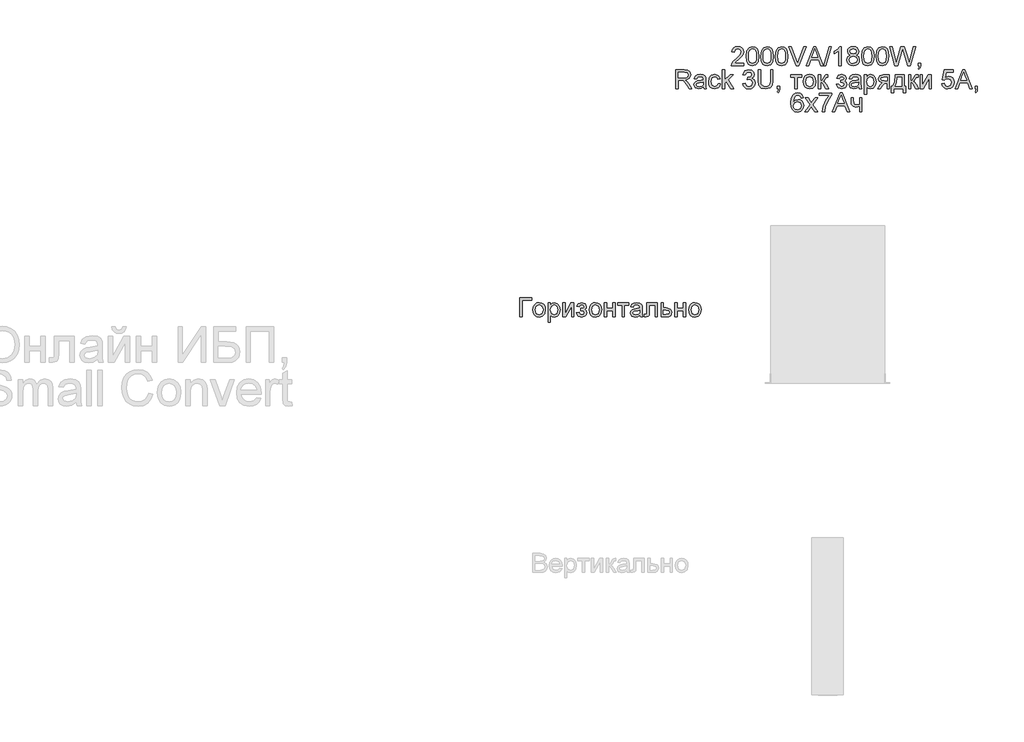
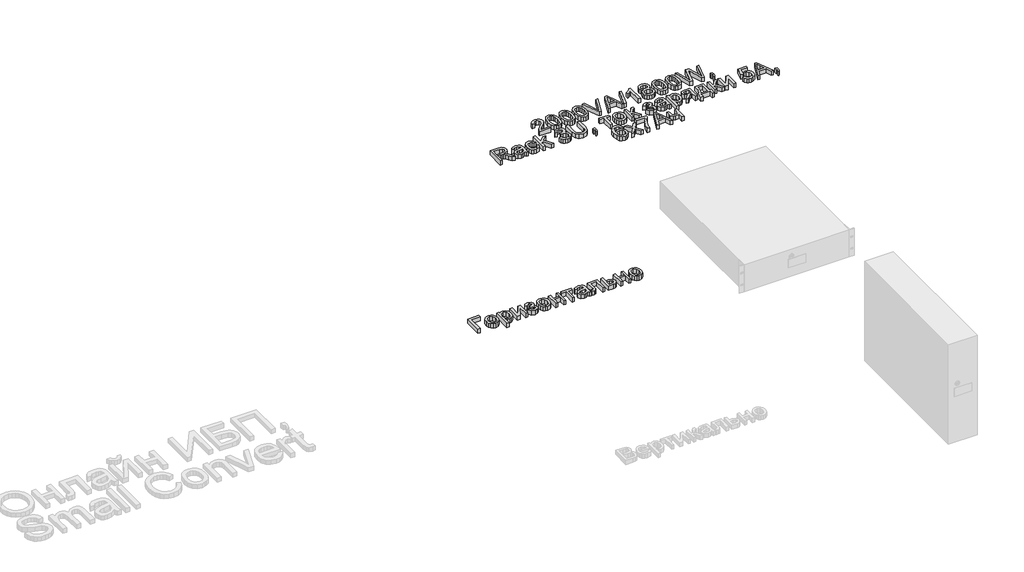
# One storey, part 12 of 74: 2 proxies.
"""IFC4 building model written with IfcOpenShell, lengths in millimetres."""

import ifcopenshell
import ifcopenshell.guid

model = None  # the IFC model being written
_history = None  # IfcOwnerHistory: only IFC2X3 demands one
_inside = {}  # id of a spatial element -> (the spatial element, [elements in it])
_under = {}  # id of a project, library or spatial element -> (it, [spatial elements below it])
_declared = {}  # id of a project -> (the project, [libraries it declares])
_typed = {}  # id of a type object -> (the type object, [elements of that type])
_made_of = {}  # id of a material, layer set ... -> (it, [elements and type objects made of it])


def new_model(schema):
    """Start an empty IFC model of exactly this schema.

    Asked for "IFC4X3", IfcOpenShell would pick the latest addendum, in which some entities
    have other attributes; the version numbers below select the first issue.
    IFC2X3 requires an IfcOwnerHistory on every rooted entity: one is made here for all.
    """
    global model, _history
    if schema == "IFC4X3":
        model = ifcopenshell.file(schema_version=(4, 3, 0, 0))
    else:
        model = ifcopenshell.file(schema=schema)
    _inside.clear()
    _under.clear()
    _declared.clear()
    _typed.clear()
    _made_of.clear()
    _history = None
    if model.schema == "IFC2X3":
        org = make("IfcOrganization", Name="unknown")
        user = make(
            "IfcPersonAndOrganization",
            ThePerson=make("IfcPerson", FamilyName="unknown"),
            TheOrganization=org,
        )
        app = make(
            "IfcApplication",
            ApplicationDeveloper=org,
            Version="unknown",
            ApplicationFullName="unknown",
            ApplicationIdentifier="unknown",
        )
        _history = make(
            "IfcOwnerHistory",
            OwningUser=user,
            OwningApplication=app,
            ChangeAction="ADDED",
            CreationDate=0,
        )
    return model


def make(cls, **values):
    """One entity of the class cls with the attributes given. An attribute that is None is left unset."""
    return model.create_entity(
        cls, **{name: value for name, value in values.items() if value is not None}
    )


def rooted(cls, **values):
    """An entity with a GlobalId (a new one), such as an element, a storey or a relation."""
    return make(cls, GlobalId=ifcopenshell.guid.new(), OwnerHistory=_history, **values)


def si_unit(unit_type, name, prefix=None):
    """IfcSIUnit, for example si_unit("LENGTHUNIT", "METRE", prefix="MILLI")."""
    return make("IfcSIUnit", UnitType=unit_type, Prefix=prefix, Name=name)


def assignment(units):
    """IfcUnitAssignment: the units of a project."""
    return None if units is None else make("IfcUnitAssignment", Units=units)


def point(xyz):
    """IfcCartesianPoint."""
    return None if xyz is None else make("IfcCartesianPoint", Coordinates=xyz)


def direction(xyz):
    """IfcDirection."""
    return None if xyz is None else make("IfcDirection", DirectionRatios=xyz)


def frame(location, z_axis=None, x_axis=None):
    """IfcAxis2Placement3D, a coordinate frame: its origin and axes. An axis left out is left unset."""
    return make(
        "IfcAxis2Placement3D",
        Location=point(location),
        Axis=direction(z_axis),
        RefDirection=direction(x_axis),
    )


def origin():
    """The frame at (0, 0, 0) with its axes left unset."""
    return frame((0.0, 0.0, 0.0))


def origin_with_axes():
    """The frame at (0, 0, 0) with the z axis (0, 0, 1) and the x axis (1, 0, 0) written out."""
    return frame((0.0, 0.0, 0.0), z_axis=(0.0, 0.0, 1.0), x_axis=(1.0, 0.0, 0.0))


def place(relative_to, where):
    """IfcLocalPlacement: puts the frame where relative to a parent placement (None: the world)."""
    return make(
        "IfcLocalPlacement", PlacementRelTo=relative_to, RelativePlacement=where
    )


def context(
    kind, dimensions, precision=None, world=None, true_north=None, identifier=None
):
    """IfcGeometricRepresentationContext, for example the 3D "Model" context."""
    return make(
        "IfcGeometricRepresentationContext",
        ContextIdentifier=identifier,
        ContextType=kind,
        CoordinateSpaceDimension=dimensions,
        Precision=precision,
        WorldCoordinateSystem=world,
        TrueNorth=true_north,
    )


def project(units=None, contexts=None):
    """IfcProject with its units and contexts."""
    return rooted(
        "IfcProject",
        Name="project",
        RepresentationContexts=contexts,
        UnitsInContext=assignment(units),
    )


def spatial(cls, under=None, at=None, **own):
    """A site, building, storey or space (cls), placed at a placement, below another one or the project."""
    s = rooted(cls, ObjectPlacement=at, **own)
    if under is not None:
        _under.setdefault(under.id(), (under, []))[1].append(s)
    return s


def polyline(points):
    """IfcPolyline through the points."""
    return make("IfcPolyline", Points=[point(p) for p in points])


def outline(outer, holes=None, kind="AREA"):
    """IfcArbitraryClosedProfileDef: a profile drawn as a closed curve; with holes, ...WithVoids."""
    if holes is None:
        return make("IfcArbitraryClosedProfileDef", ProfileType=kind, OuterCurve=outer)
    return make(
        "IfcArbitraryProfileDefWithVoids",
        ProfileType=kind,
        OuterCurve=outer,
        InnerCurves=holes,
    )


def extrude(swept, where, along, depth):
    """IfcExtrudedAreaSolid: the profile swept, set in the frame where, extruded along a direction by depth."""
    return make(
        "IfcExtrudedAreaSolid",
        SweptArea=swept,
        Position=where,
        ExtrudedDirection=direction(along),
        Depth=depth,
    )


def shape(context_of_items, identifier, shape_type, items):
    """IfcShapeRepresentation: the items that make up one representation, for example the "Body"."""
    return make(
        "IfcShapeRepresentation",
        ContextOfItems=context_of_items,
        RepresentationIdentifier=identifier,
        RepresentationType=shape_type,
        Items=items,
    )


def made_of(thing, what):
    """Note that an element or type object is made of a material, layer set ...; save() writes the relation."""
    if what is not None:
        _made_of.setdefault(what.id(), (what, []))[1].append(thing)
    return thing


def element(
    cls,
    number,
    at=None,
    inside=None,
    cuts=None,
    type_object=None,
    material=None,
    context=None,
    identifier="Body",
    shape_type=None,
    held_by="IfcProductDefinitionShape",
    body=None,
    shapes=None,
    **own,
):
    """One element of the class cls, such as IfcWall. Its Tag is "e" and its number.

    at: its placement. inside: the storey or other place that contains it. cuts: it is an
    opening in that element (IfcRelVoidsElement). A single representation is given by context,
    identifier, shape_type and body (its items); several are given by shapes. held_by: the class
    of the entity that holds the representations. save() writes the other relations.
    """
    e = rooted(cls, Tag="e%d" % number, ObjectPlacement=at, **own)
    if body is not None:
        shapes = [shape(context, identifier, shape_type, body)]
    if shapes is not None:
        e.Representation = make(held_by, Representations=shapes)
    if inside is not None:
        _inside.setdefault(inside.id(), (inside, []))[1].append(e)
    if cuts is not None:
        rooted(
            "IfcRelVoidsElement", RelatingBuildingElement=cuts, RelatedOpeningElement=e
        )
    if type_object is not None:
        _typed.setdefault(type_object.id(), (type_object, []))[1].append(e)
    return made_of(e, material)


def aggregate(whole, parts):
    """IfcRelAggregates: a whole, such as a stair, and the parts it consists of."""
    return rooted("IfcRelAggregates", RelatingObject=whole, RelatedObjects=parts)


def save(model, path):
    """Write the relations noted so far, then the file.

    IfcRelAggregates (storeys below a building ...), IfcRelContainedInSpatialStructure (elements
    in a storey), IfcRelDefinesByType, IfcRelAssociatesMaterial and IfcRelDeclares: one each for
    every whole, place, type object, material and project.
    """
    for whole, parts in _under.values():
        aggregate(whole, parts)
    for where, things in _inside.values():
        rooted(
            "IfcRelContainedInSpatialStructure",
            RelatedElements=things,
            RelatingStructure=where,
        )
    for kind, things in _typed.values():
        rooted("IfcRelDefinesByType", RelatedObjects=things, RelatingType=kind)
    for what, things in _made_of.values():
        rooted("IfcRelAssociatesMaterial", RelatedObjects=things, RelatingMaterial=what)
    for by, libraries in _declared.values():
        rooted("IfcRelDeclares", RelatingContext=by, RelatedDefinitions=libraries)
    model.write(path)


model = new_model("IFC4")

# Units and contexts
model_context = context("Model", 3, world=origin())
ifc_project = project(units=[si_unit("LENGTHUNIT", "METRE", prefix="MILLI")], contexts=[model_context])

# Site, building, storey
site = spatial("IfcSite", under=ifc_project)
building = spatial("IfcBuilding", under=site)
storey = spatial("IfcBuildingStorey", under=building, Name="Этаж 01", Elevation=0.0)

# Proxies
placement = place(None, origin())
element("IfcBuildingElementProxy", 1, Name="80 мм Arial", ObjectType="80 мм Arial", at=placement, inside=storey, context=model_context, shape_type="SweptSolid", body=[
    extrude(outline(polyline([(52.7313094, -35349.6879141), (102.9594644, -35349.6879141), (102.9594644, -35359.7335451), (62.7769404, -35359.7335451), (62.7769404, -35430.0529622), (52.7313094, -35430.0529622), (52.7313094, -35349.6879141)])), origin_with_axes(), (0.0, 0.0, 1.0), 20.0),
    extrude(outline(polyline([(107.9822799, -35400.5439211), (110.1552363, -35386.3142455), (116.6741052, -35376.3127603), (124.7282684, -35371.4125721), (134.3716817, -35369.7791761), (144.9249899, -35371.7681914), (153.3543927, -35377.7352374), (158.8799802, -35387.209425), (160.7218428, -35399.7198654), (157.4648608, -35417.5940253), (147.9784105, -35427.7083276), (134.3716817, -35431.3086661), (123.6908411, -35429.3270084), (115.2712485, -35423.3820353), (109.8045221, -35413.7091914), (107.9822799, -35400.5439211)]), holes=[polyline([(118.027911, -35400.5243007), (122.6779394, -35416.0930667), (134.3716817, -35421.263035), (146.0261833, -35416.0636362), (150.6762117, -35400.2103747), (145.9967528, -35384.9947754), (134.3716817, -35379.8248071), (122.6779394, -35384.975155), (118.027911, -35400.5243007)])]), origin_with_axes(), (0.0, 0.0, 1.0), 20.0),
    extrude(outline(polyline([(172.0231777, -35452.655632), (172.0231777, -35371.03488), (182.0688087, -35371.03488), (182.0688087, -35380.8843072), (189.0144207, -35372.5554589), (198.3929591, -35369.7791761), (211.1265812, -35373.66401), (219.4456194, -35384.6121781), (222.2513327, -35400.0926525), (219.0826425, -35416.367752), (209.8806875, -35427.4532627), (197.1764959, -35431.3086661), (188.4356197, -35428.728587), (182.0688087, -35422.2048129), (182.0688087, -35452.655632), (172.0231777, -35452.655632)]), holes=[polyline([(182.0688087, -35401.01481), (186.4147213, -35416.318701), (196.9606718, -35421.263035), (207.7224465, -35416.1421177), (212.2057017, -35400.2692358), (207.8303585, -35384.9261041), (197.3726997, -35379.8248071), (186.7090269, -35385.2498403), (182.0688087, -35401.01481)])]), origin_with_axes(), (0.0, 0.0, 1.0), 20.0),
    extrude(outline(polyline([(233.5526676, -35371.03488), (243.5982986, -35371.03488), (243.5982986, -35416.0440158), (268.280728, -35371.03488), (281.2694149, -35371.03488), (281.2694149, -35430.0529622), (271.2237839, -35430.0529622), (271.2237839, -35385.3185116), (246.6983176, -35430.0529622), (233.5526676, -35430.0529622), (233.5526676, -35371.03488)])), origin_with_axes(), (0.0, 0.0, 1.0), 20.0),
    extrude(outline(polyline([(310.1506041, -35403.6831808), (310.1506041, -35393.6375497), (318.0772348, -35393.2451423), (322.0797909, -35391.1555726), (323.9633468, -35386.7900395), (321.4421288, -35381.7181731), (314.9379751, -35379.8248071), (308.2179974, -35381.7083629), (303.8720847, -35387.3590304), (292.5707498, -35386.1033265), (300.1245935, -35373.8602137), (313.9177157, -35369.7791761), (328.6722363, -35374.7529407), (334.0089778, -35386.6330766), (332.1107067, -35392.8723552), (326.4158934, -35397.698967), (333.0573897, -35403.957866), (335.2646816, -35412.9636172), (333.8642775, -35420.3580453), (329.6630651, -35426.2171792), (313.9961972, -35431.3086661), (298.5451534, -35426.5997765), (291.315046, -35412.4731079), (302.6163809, -35411.217404), (307.148687, -35418.633905), (314.9575955, -35421.263035), (322.295615, -35418.7418171), (325.2190506, -35412.2965245), (323.4041661, -35407.0186442), (319.5389526, -35404.1933105), (312.1126414, -35403.6243196), (310.1506041, -35403.6831808)])), origin_with_axes(), (0.0, 0.0, 1.0), 20.0),
    extrude(outline(polyline([(345.3103127, -35400.5439211), (347.483269, -35386.3142455), (354.0021379, -35376.3127603), (362.0563011, -35371.4125721), (371.6997145, -35369.7791761), (382.2530226, -35371.7681914), (390.6824254, -35377.7352374), (396.208013, -35387.209425), (398.0498755, -35399.7198654), (394.7928936, -35417.5940253), (385.3064432, -35427.7083276), (371.6997145, -35431.3086661), (361.0188739, -35429.3270084), (352.5992813, -35423.3820353), (347.1325548, -35413.7091914), (345.3103127, -35400.5439211)]), holes=[polyline([(355.3559437, -35400.5243007), (360.0059721, -35416.0930667), (371.6997145, -35421.263035), (383.3542161, -35416.0636362), (388.0042445, -35400.2103747), (383.3247855, -35384.9947754), (371.6997145, -35379.8248071), (360.0059721, -35384.975155), (355.3559437, -35400.5243007)])]), origin_with_axes(), (0.0, 0.0, 1.0), 20.0),
    extrude(outline(polyline([(409.3512104, -35371.03488), (419.3968414, -35371.03488), (419.3968414, -35393.6375497), (445.7666228, -35393.6375497), (445.7666228, -35371.03488), (455.8122538, -35371.03488), (455.8122538, -35430.0529622), (445.7666228, -35430.0529622), (445.7666228, -35403.6831808), (419.3968414, -35403.6831808), (419.3968414, -35430.0529622), (409.3512104, -35430.0529622), (409.3512104, -35371.03488)])), origin_with_axes(), (0.0, 0.0, 1.0), 20.0),
    extrude(outline(polyline([(465.8578848, -35371.03488), (513.5746322, -35371.03488), (513.5746322, -35381.080511), (494.739074, -35381.080511), (494.739074, -35430.0529622), (484.693443, -35430.0529622), (484.693443, -35381.080511), (465.8578848, -35381.080511), (465.8578848, -35371.03488)])), origin_with_axes(), (0.0, 0.0, 1.0), 20.0),
    extrude(outline(polyline([(560.0356756, -35422.5187389), (550.2941604, -35429.3270084), (539.5323857, -35431.3086661), (524.9446384, -35426.5409154), (519.8531515, -35414.3566637), (521.7759481, -35406.4104126), (526.8281942, -35400.6420229), (533.8620979, -35397.3458003), (542.5539232, -35395.8350315), (559.9768145, -35392.3818459), (560.0356756, -35390.1451233), (557.269203, -35382.7286223), (546.1640718, -35379.8248071), (536.0007186, -35381.7574138), (531.1544864, -35388.6147342), (521.1088554, -35387.3590304), (525.4547681, -35377.5488438), (534.2054545, -35371.8000745), (547.4590165, -35369.7791761), (559.633458, -35371.56463), (566.5103987, -35376.0478853), (569.5907973, -35382.8659649), (570.0813066, -35391.6558921), (570.0813066, -35404.1540697), (570.5914363, -35421.6063916), (572.5927144, -35430.0529622), (562.5470834, -35430.0529622), (560.0356756, -35422.5187389)]), holes=[polyline([(560.0356756, -35402.4274769), (543.8292474, -35405.5078755), (535.1864731, -35407.1363664), (531.2722087, -35409.7851168), (529.8987826, -35413.6503303), (532.8908895, -35419.0851736), (541.6710064, -35421.263035), (551.8343597, -35418.8595393), (558.3875643, -35413.0420987), (559.9768145, -35405.272431), (560.0356756, -35402.4274769)])]), origin_with_axes(), (0.0, 0.0, 1.0), 20.0),
    extrude(outline(polyline([(588.9168648, -35371.03488), (634.1222043, -35371.03488), (634.1222043, -35429.9941011), (624.0765733, -35429.9941011), (624.0765733, -35381.080511), (598.9624958, -35381.080511), (598.9624958, -35409.2357463), (598.2855929, -35422.2244333), (594.5675322, -35427.7083276), (585.7776051, -35430.0529622), (577.6155299, -35429.5428325), (577.6155299, -35420.0073312), (582.1085953, -35420.0073312), (586.6507117, -35419.3892894), (588.4655962, -35417.4272521), (588.9168648, -35408.6667555), (588.9168648, -35371.03488)])), origin_with_axes(), (0.0, 0.0, 1.0), 20.0),
    extrude(outline(polyline([(649.1906509, -35371.03488), (659.2362819, -35371.03488), (659.2362819, -35392.3818459), (670.812302, -35392.3818459), (688.274434, -35397.4144716), (692.8656013, -35403.4011379), (694.3959904, -35411.2958855), (689.1867814, -35424.5494475), (682.4153001, -35428.6770835), (672.5192745, -35430.0529622), (649.1906509, -35430.0529622), (649.1906509, -35371.03488)]), holes=[polyline([(659.2362819, -35420.0073312), (668.6148202, -35420.0073312), (680.7304006, -35417.8981411), (684.3503594, -35411.3155059), (681.6721785, -35405.1350884), (669.811663, -35402.4274769), (659.2362819, -35402.4274769), (659.2362819, -35420.0073312)])]), origin_with_axes(), (0.0, 0.0, 1.0), 20.0),
    extrude(outline(polyline([(706.9530292, -35371.03488), (716.9986602, -35371.03488), (716.9986602, -35393.6375497), (743.3684416, -35393.6375497), (743.3684416, -35371.03488), (753.4140726, -35371.03488), (753.4140726, -35430.0529622), (743.3684416, -35430.0529622), (743.3684416, -35403.6831808), (716.9986602, -35403.6831808), (716.9986602, -35430.0529622), (706.9530292, -35430.0529622), (706.9530292, -35371.03488)])), origin_with_axes(), (0.0, 0.0, 1.0), 20.0),
    extrude(outline(polyline([(765.9711114, -35400.5439211), (768.1440677, -35386.3142455), (774.6629367, -35376.3127603), (782.7170998, -35371.4125721), (792.3605132, -35369.7791761), (802.9138214, -35371.7681914), (811.3432242, -35377.7352374), (816.8688117, -35387.209425), (818.7106742, -35399.7198654), (815.4536923, -35417.5940253), (805.9672419, -35427.7083276), (792.3605132, -35431.3086661), (781.6796726, -35429.3270084), (773.26008, -35423.3820353), (767.7933536, -35413.7091914), (765.9711114, -35400.5439211)]), holes=[polyline([(776.0167424, -35400.5243007), (780.6667708, -35416.0930667), (792.3605132, -35421.263035), (804.0150148, -35416.0636362), (808.6650432, -35400.2103747), (803.9855843, -35384.9947754), (792.3605132, -35379.8248071), (780.6667708, -35384.975155), (776.0167424, -35400.5243007)])]), origin_with_axes(), (0.0, 0.0, 1.0), 20.0),
])
element("IfcBuildingElementProxy", 2, Name="80 мм Arial", ObjectType="80 мм Arial", at=placement, inside=storey, context=model_context, shape_type="SweptSolid", body=[
    extrude(outline(polyline([(999.1131351, -34358.2120336), (999.1131351, -34368.2576646), (946.3735723, -34368.2576646), (947.4526928, -34361.3316729), (953.5546288, -34350.6680002), (966.1312879, -34339.0233087), (983.4756977, -34322.2871305), (987.8118002, -34310.9073141), (983.7209524, -34301.695549), (973.0376593, -34297.9382475), (961.9030975, -34301.6072573), (957.6749071, -34311.7509902), (947.6292761, -34310.4952863), (950.0646549, -34300.7782965), (955.3302726, -34293.6806266), (963.1514438, -34289.339619), (973.2534834, -34287.8926165), (983.4290994, -34289.5014871), (991.2355553, -34294.3280989), (996.2019622, -34301.538586), (997.8574312, -34310.2990826), (996.0719773, -34319.8247737), (990.1368144, -34329.674201), (975.7452708, -34343.4378927), (964.188871, -34353.1009264), (959.6565648, -34358.2120336), (999.1131351, -34358.2120336)])), origin_with_axes(), (0.0, 0.0, 1.0), 20.0),
    extrude(outline(polyline([(1009.1587661, -34328.7226129), (1012.1116322, -34305.6000032), (1020.881939, -34292.2679597), (1035.5285475, -34287.8926165), (1047.2615306, -34290.4825058), (1055.3647447, -34297.9480577), (1060.0736342, -34309.8380038), (1061.8983289, -34328.7226129), (1058.9748933, -34351.7471207), (1050.2340171, -34365.1085947), (1035.5285475, -34369.5133685), (1025.090509, -34367.6003821), (1017.1638783, -34361.861423), (1011.1600442, -34348.2694096), (1009.1587661, -34328.7226129)]), holes=[polyline([(1019.2043971, -34328.7029925), (1020.3816195, -34344.5047505), (1023.9132867, -34353.6502969), (1035.5285475, -34359.4677375), (1047.1438084, -34353.6306765), (1050.6754755, -34344.480225), (1051.8526979, -34328.7029925), (1050.7147163, -34313.2568538), (1047.3007714, -34304.0401835), (1042.0523216, -34299.4637315), (1035.4108253, -34297.9382475), (1024.0702496, -34303.3142297), (1020.4208602, -34313.1047959), (1019.2043971, -34328.7029925)])]), origin_with_axes(), (0.0, 0.0, 1.0), 20.0),
    extrude(outline(polyline([(1070.6882561, -34328.7226129), (1073.6411222, -34305.6000032), (1082.411429, -34292.2679597), (1097.0580375, -34287.8926165), (1108.7910206, -34290.4825058), (1116.8942347, -34297.9480577), (1121.6031242, -34309.8380038), (1123.4278189, -34328.7226129), (1120.5043833, -34351.7471207), (1111.7635071, -34365.1085947), (1097.0580375, -34369.5133685), (1086.619999, -34367.6003821), (1078.6933683, -34361.861423), (1072.6895341, -34348.2694096), (1070.6882561, -34328.7226129)]), holes=[polyline([(1080.7338871, -34328.7029925), (1081.9111095, -34344.5047505), (1085.4427766, -34353.6502969), (1097.0580375, -34359.4677375), (1108.6732983, -34353.6306765), (1112.2049655, -34344.480225), (1113.3821879, -34328.7029925), (1112.2442062, -34313.2568538), (1108.8302613, -34304.0401835), (1103.5818115, -34299.4637315), (1096.9403152, -34297.9382475), (1085.5997396, -34303.3142297), (1081.9503502, -34313.1047959), (1080.7338871, -34328.7029925)])]), origin_with_axes(), (0.0, 0.0, 1.0), 20.0),
    extrude(outline(polyline([(1132.217746, -34328.7226129), (1135.1706122, -34305.6000032), (1143.9409189, -34292.2679597), (1158.5875274, -34287.8926165), (1170.3205105, -34290.4825058), (1178.4237246, -34297.9480577), (1183.1326142, -34309.8380038), (1184.9573089, -34328.7226129), (1182.0338733, -34351.7471207), (1173.2929971, -34365.1085947), (1158.5875274, -34369.5133685), (1148.149489, -34367.6003821), (1140.2228582, -34361.861423), (1134.2190241, -34348.2694096), (1132.217746, -34328.7226129)]), holes=[polyline([(1142.263377, -34328.7029925), (1143.4405994, -34344.5047505), (1146.9722666, -34353.6502969), (1158.5875274, -34359.4677375), (1170.2027883, -34353.6306765), (1173.7344555, -34344.480225), (1174.9116778, -34328.7029925), (1173.7736962, -34313.2568538), (1170.3597513, -34304.0401835), (1165.1113015, -34299.4637315), (1158.4698052, -34297.9382475), (1147.1292296, -34303.3142297), (1143.4798402, -34313.1047959), (1142.263377, -34328.7029925)])]), origin_with_axes(), (0.0, 0.0, 1.0), 20.0),
    extrude(outline(polyline([(1262.2419584, -34368.2576646), (1294.3212684, -34287.8926165), (1302.875751, -34287.8926165), (1334.955061, -34368.2576646), (1324.3404392, -34368.2576646), (1315.1384842, -34343.1435871), (1282.0389148, -34343.1435871), (1272.8565802, -34368.2576646), (1262.2419584, -34368.2576646)]), holes=[polyline([(1285.727545, -34333.0979561), (1311.4694745, -34333.0979561), (1304.2295568, -34313.3402404), (1298.5985097, -34297.9382475), (1293.5953146, -34311.6136476), (1285.727545, -34333.0979561)])]), origin_with_axes(), (0.0, 0.0, 1.0), 20.0),
    extrude(outline(polyline([(1221.2549991, -34368.2576646), (1189.2737909, -34287.8926165), (1200.0257554, -34287.8926165), (1221.4315824, -34345.7923375), (1225.7676849, -34358.8398855), (1230.0449262, -34345.7923375), (1251.5096143, -34287.8926165), (1262.2615788, -34287.8926165), (1231.6341764, -34368.2576646), (1221.2549991, -34368.2576646)])), origin_with_axes(), (0.0, 0.0, 1.0), 20.0),
    extrude(outline(polyline([(1336.897478, -34368.2576646), (1359.5001477, -34287.8926165), (1368.5647601, -34287.8926165), (1345.9620903, -34368.2576646), (1336.897478, -34368.2576646)])), origin_with_axes(), (0.0, 0.0, 1.0), 20.0),
    extrude(outline(polyline([(1410.9840067, -34368.2576646), (1400.9383757, -34368.2576646), (1400.9383757, -34305.6294338), (1391.4224947, -34312.4082727), (1380.8471137, -34317.4801391), (1380.8471137, -34307.9838785), (1395.5722036, -34298.5857198), (1404.5092836, -34287.8926165), (1410.9840067, -34287.8926165), (1410.9840067, -34368.2576646)])), origin_with_axes(), (0.0, 0.0, 1.0), 20.0),
    extrude(outline(polyline([(1449.4791787, -34323.994103), (1440.3262746, -34317.7548243), (1437.3537881, -34308.0427397), (1438.9724689, -34300.1896853), (1443.8285112, -34293.7002469), (1451.3774498, -34289.3445241), (1461.0748192, -34287.8926165), (1470.8310497, -34289.3788598), (1478.4780901, -34293.8375895), (1483.4224241, -34300.4300349), (1485.0705354, -34308.3174249), (1482.1372897, -34317.7842549), (1473.2394505, -34323.994103), (1483.9227436, -34331.8716828), (1487.5819432, -34344.8701799), (1485.7670587, -34354.4743525), (1480.3224051, -34362.4107934), (1471.9150753, -34367.7377247), (1461.2121618, -34369.5133685), (1450.5092483, -34367.7303671), (1442.1019184, -34362.3813629), (1436.6572649, -34354.368893), (1434.8423804, -34344.5954947), (1438.6487327, -34331.2928817), (1449.4791787, -34323.994103)]), holes=[polyline([(1447.3994191, -34308.3370452), (1450.9605168, -34316.2244352), (1461.329884, -34319.2852134), (1471.4932373, -34316.2440556), (1475.0249044, -34308.7883138), (1471.375515, -34301.067697), (1461.2121618, -34297.9382475), (1451.019378, -34300.9990257), (1447.3994191, -34308.3370452)]), polyline([(1444.8880114, -34344.242328), (1446.5655533, -34351.8059818), (1452.5007161, -34357.4664594), (1461.2906433, -34359.4677375), (1473.2590708, -34355.2591675), (1477.5363122, -34344.5562539), (1473.1217282, -34333.6473265), (1460.9570969, -34329.3308444), (1449.1358221, -34333.5884654), (1444.8880114, -34344.242328)])]), origin_with_axes(), (0.0, 0.0, 1.0), 20.0),
    extrude(outline(polyline([(1496.3718703, -34328.7226129), (1499.3247365, -34305.6000032), (1508.0950432, -34292.2679597), (1522.7416517, -34287.8926165), (1534.4746348, -34290.4825058), (1542.5778489, -34297.9480577), (1547.2867385, -34309.8380038), (1549.1114332, -34328.7226129), (1546.1879976, -34351.7471207), (1537.4471214, -34365.1085947), (1522.7416517, -34369.5133685), (1512.3036133, -34367.6003821), (1504.3769825, -34361.861423), (1498.3731484, -34348.2694096), (1496.3718703, -34328.7226129)]), holes=[polyline([(1506.4175013, -34328.7029925), (1507.5947237, -34344.5047505), (1511.1263909, -34353.6502969), (1522.7416517, -34359.4677375), (1534.3569126, -34353.6306765), (1537.8885798, -34344.480225), (1539.0658021, -34328.7029925), (1537.9278205, -34313.2568538), (1534.5138756, -34304.0401835), (1529.2654258, -34299.4637315), (1522.6239295, -34297.9382475), (1511.2833539, -34303.3142297), (1507.6339645, -34313.1047959), (1506.4175013, -34328.7029925)])]), origin_with_axes(), (0.0, 0.0, 1.0), 20.0),
    extrude(outline(polyline([(1557.9013603, -34328.7226129), (1560.8542264, -34305.6000032), (1569.6245332, -34292.2679597), (1584.2711417, -34287.8926165), (1596.0041248, -34290.4825058), (1604.1073389, -34297.9480577), (1608.8162284, -34309.8380038), (1610.6409231, -34328.7226129), (1607.7174875, -34351.7471207), (1598.9766113, -34365.1085947), (1584.2711417, -34369.5133685), (1573.8331032, -34367.6003821), (1565.9064725, -34361.861423), (1559.9026383, -34348.2694096), (1557.9013603, -34328.7226129)]), holes=[polyline([(1567.9469913, -34328.7029925), (1569.1242137, -34344.5047505), (1572.6558808, -34353.6502969), (1584.2711417, -34359.4677375), (1595.8864026, -34353.6306765), (1599.4180697, -34344.480225), (1600.5952921, -34328.7029925), (1599.4573105, -34313.2568538), (1596.0433656, -34304.0401835), (1590.7949158, -34299.4637315), (1584.1534195, -34297.9382475), (1572.8128438, -34303.3142297), (1569.1634544, -34313.1047959), (1567.9469913, -34328.7029925)])]), origin_with_axes(), (0.0, 0.0, 1.0), 20.0),
    extrude(outline(polyline([(1637.5796954, -34368.2576646), (1615.6637386, -34287.8926165), (1626.0232956, -34287.8926165), (1638.7372974, -34340.7106608), (1642.661372, -34357.0151909), (1646.8601318, -34342.5942166), (1662.7918748, -34287.8926165), (1677.7229787, -34287.8926165), (1689.2989988, -34327.5453905), (1697.9123426, -34357.0151909), (1701.7186949, -34341.1815498), (1714.5504189, -34287.8926165), (1724.9099759, -34287.8926165), (1702.9743988, -34368.2576646), (1692.2420547, -34368.2576646), (1672.9748484, -34306.2572857), (1670.2868573, -34297.6047012), (1667.2653198, -34308.0231193), (1649.7050859, -34368.2576646), (1637.5796954, -34368.2576646)])), origin_with_axes(), (0.0, 0.0, 1.0), 20.0),
    extrude(outline(polyline([(1736.2113108, -34368.2576646), (1736.2113108, -34358.2120336), (1746.2569418, -34358.2120336), (1746.2569418, -34368.2576646), (1744.4518675, -34378.5289299), (1738.7227186, -34384.581815), (1736.2113108, -34380.8147034), (1739.8999409, -34376.4786009), (1741.2145059, -34368.2576646), (1736.2113108, -34368.2576646)])), origin_with_axes(), (0.0, 0.0, 1.0), 20.0),
    extrude(outline(polyline([(711.5569473, -34465.8375189), (711.5569473, -34385.4724708), (746.1869058, -34385.4724708), (762.2658015, -34387.640522), (771.0557286, -34395.3120879), (774.3421411, -34407.466909), (768.8974876, -34421.9467443), (752.0730177, -34429.4221065), (757.7825462, -34433.7189682), (765.9250011, -34444.0589048), (779.3257159, -34465.8375189), (767.6515939, -34465.8375189), (757.1939351, -34449.1798222), (749.6400914, -34438.1531725), (744.3327805, -34432.9439634), (739.5552197, -34431.0309771), (733.7279689, -34430.6778103), (721.6025783, -34430.6778103), (721.6025783, -34465.8375189), (711.5569473, -34465.8375189)]), holes=[polyline([(721.6025783, -34420.6321793), (744.0875258, -34420.6321793), (755.5556339, -34419.2097023), (762.0695978, -34414.6577757), (764.2965101, -34407.8396961), (760.0486993, -34398.9909078), (746.618554, -34395.5181018), (721.6025783, -34395.5181018), (721.6025783, -34420.6321793)])]), origin_with_axes(), (0.0, 0.0, 1.0), 20.0),
    extrude(outline(polyline([(828.3374078, -34458.3032956), (818.5958926, -34465.1115651), (807.834118, -34467.0932228), (793.2463706, -34462.3254721), (788.1548838, -34450.1412204), (790.0776803, -34442.1949693), (795.1299264, -34436.4265797), (802.1638301, -34433.130357), (810.8556554, -34431.6195883), (828.2785467, -34428.1664026), (828.3374078, -34425.9296801), (825.5709352, -34418.513179), (814.4658041, -34415.6093638), (804.3024508, -34417.5419706), (799.4562187, -34424.399291), (789.4105876, -34423.1435871), (793.7565003, -34413.3334005), (802.5071867, -34407.5846312), (815.7607487, -34405.5637328), (827.9351902, -34407.3491868), (834.8121309, -34411.832442), (837.8925295, -34418.6505217), (838.3830388, -34427.4404488), (838.3830388, -34439.9386264), (838.8931685, -34457.3909483), (840.8944466, -34465.8375189), (830.8488156, -34465.8375189), (828.3374078, -34458.3032956)]), holes=[polyline([(828.3374078, -34438.2120336), (812.1309797, -34441.2924322), (803.4882053, -34442.9209231), (799.5739409, -34445.5696735), (798.2005148, -34449.434887), (801.1926217, -34454.8697304), (809.9727386, -34457.0475918), (820.1360919, -34454.6440961), (826.6892965, -34448.8266554), (828.2785467, -34441.0569877), (828.3374078, -34438.2120336)])]), origin_with_axes(), (0.0, 0.0, 1.0), 20.0),
    extrude(outline(polyline([(889.8668978, -34444.490553), (899.9125288, -34445.7462569), (897.1117206, -34454.6808843), (891.8485555, -34461.4327451), (875.9168125, -34467.0932228), (865.2310669, -34465.1189227), (856.8752405, -34459.1960226), (851.4820904, -34449.5844924), (849.6843737, -34436.5443019), (852.7549621, -34419.8571746), (862.1138801, -34409.1346407), (875.7794699, -34405.5637328), (891.0539304, -34410.4688261), (898.6568249, -34424.399291), (888.6111939, -34425.6549948), (883.9513553, -34418.1305818), (875.8579514, -34415.6093638), (864.21326, -34420.5733182), (859.7300048, -34436.2696167), (864.1151581, -34452.1130679), (875.5832662, -34457.0475918), (885.0500962, -34453.9671932), (889.8668978, -34444.490553)])), origin_with_axes(), (0.0, 0.0, 1.0), 20.0),
    extrude(outline(polyline([(908.7024559, -34465.8375189), (908.7024559, -34385.4724708), (918.748087, -34385.4724708), (918.748087, -34428.6569119), (941.2722753, -34406.8194367), (955.1634994, -34406.8194367), (932.3646259, -34428.9315971), (956.4192033, -34465.8375189), (944.6862202, -34465.8375189), (925.163949, -34435.91645), (918.748087, -34442.1361082), (918.748087, -34465.8375189), (908.7024559, -34465.8375189)])), origin_with_axes(), (0.0, 0.0, 1.0), 20.0),
    extrude(outline(polyline([(994.0903196, -34444.490553), (1004.1359506, -34443.2348491), (1009.678706, -34453.8102302), (1020.0480732, -34457.0475918), (1032.2519452, -34452.5937671), (1036.7842514, -34441.5671174), (1032.291186, -34431.1781299), (1020.8721288, -34427.0676617), (1013.8284149, -34428.1664026), (1014.9467762, -34418.1207716), (1016.5556467, -34418.2384938), (1027.9550835, -34415.354299), (1033.0171398, -34406.4858903), (1029.34813, -34398.6279309), (1019.8911102, -34395.5181018), (1010.3163681, -34398.6573615), (1005.3916545, -34408.0751406), (995.3460235, -34406.8194367), (1003.5669598, -34391.0642771), (1019.5379435, -34385.4724708), (1031.6535238, -34388.2291332), (1040.129525, -34395.7633565), (1043.0627708, -34405.8972792), (1040.2766778, -34415.1580952), (1032.0361211, -34421.8094017), (1042.9842893, -34428.6765323), (1046.8298824, -34441.7437008), (1044.9070858, -34451.5342669), (1039.1386962, -34459.7159625), (1030.4321556, -34465.2489077), (1019.6949064, -34467.0932228), (1009.9828218, -34465.5186878), (1002.0758114, -34460.795083), (996.5772019, -34453.5698806), (994.0903196, -34444.490553)])), origin_with_axes(), (0.0, 0.0, 1.0), 20.0),
    extrude(outline(polyline([(1112.126484, -34385.4724708), (1122.172115, -34385.4724708), (1122.172115, -34431.8354124), (1119.4448832, -34451.0535678), (1109.6150762, -34462.6295879), (1090.9757218, -34467.0932228), (1072.6208628, -34463.2083889), (1062.4378892, -34451.9561049), (1059.3869212, -34431.8354124), (1059.3869212, -34385.4724708), (1069.4325522, -34385.4724708), (1069.4325522, -34431.4822456), (1071.4142099, -34446.7959468), (1078.2224793, -34454.379221), (1090.0339439, -34457.0475918), (1100.2512532, -34455.7281217), (1107.0448074, -34451.7697114), (1110.8560648, -34444.0589048), (1112.126484, -34431.4822456), (1112.126484, -34385.4724708)])), origin_with_axes(), (0.0, 0.0, 1.0), 20.0),
    extrude(outline(polyline([(1141.0076732, -34465.8375189), (1141.0076732, -34455.7918879), (1151.0533042, -34455.7918879), (1151.0533042, -34465.8375189), (1149.2482299, -34476.1087842), (1143.5190809, -34482.1616693), (1141.0076732, -34478.3945577), (1144.6963033, -34474.0584552), (1146.0108683, -34465.8375189), (1141.0076732, -34465.8375189)])), origin_with_axes(), (0.0, 0.0, 1.0), 20.0),
    extrude(outline(polyline([(1196.2586438, -34406.8194367), (1243.9753911, -34406.8194367), (1243.9753911, -34416.8650677), (1225.1398329, -34416.8650677), (1225.1398329, -34465.8375189), (1215.0942019, -34465.8375189), (1215.0942019, -34416.8650677), (1196.2586438, -34416.8650677), (1196.2586438, -34406.8194367)])), origin_with_axes(), (0.0, 0.0, 1.0), 20.0),
    extrude(outline(polyline([(1250.2539105, -34436.3284778), (1252.4268668, -34422.0988022), (1258.9457357, -34412.097317), (1266.9998989, -34407.1971289), (1276.6433122, -34405.5637328), (1287.1966204, -34407.5527481), (1295.6260232, -34413.5197941), (1301.1516108, -34422.9939817), (1302.9934733, -34435.5044221), (1299.7364914, -34453.378582), (1290.250041, -34463.4928843), (1276.6433122, -34467.0932228), (1265.9624717, -34465.1115651), (1257.5428791, -34459.1665921), (1252.0761526, -34449.4937481), (1250.2539105, -34436.3284778)]), holes=[polyline([(1260.2995415, -34436.3088574), (1264.9495699, -34451.8776235), (1276.6433122, -34457.0475918), (1288.2978139, -34451.8481929), (1292.9478423, -34435.9949315), (1288.2683833, -34420.7793321), (1276.6433122, -34415.6093638), (1264.9495699, -34420.7597118), (1260.2995415, -34436.3088574)])]), origin_with_axes(), (0.0, 0.0, 1.0), 20.0),
    extrude(outline(polyline([(1314.2948082, -34406.8194367), (1324.3404392, -34406.8194367), (1324.3404392, -34431.9335142), (1331.0702272, -34430.1284399), (1336.583552, -34419.6119199), (1341.1649091, -34410.5374974), (1345.206706, -34407.5846312), (1352.5545357, -34406.8194367), (1354.4773322, -34406.8194367), (1354.4773322, -34416.9239288), (1351.7697208, -34416.8650677), (1346.8646275, -34417.9245678), (1343.4114418, -34424.5366336), (1339.3598348, -34431.6882596), (1333.6797368, -34435.1904962), (1340.0171173, -34439.0998555), (1346.2367755, -34447.3355071), (1356.98874, -34465.8375189), (1345.5696829, -34465.8375189), (1335.0335425, -34447.7279146), (1329.7360418, -34440.0661589), (1324.3404392, -34438.2120336), (1324.3404392, -34465.8375189), (1314.2948082, -34465.8375189), (1314.2948082, -34406.8194367)])), origin_with_axes(), (0.0, 0.0, 1.0), 20.0),
    extrude(outline(polyline([(1408.4725989, -34439.4677375), (1408.4725989, -34429.4221065), (1416.3992297, -34429.029699), (1420.4017858, -34426.9401293), (1422.2853416, -34422.5745963), (1419.7641236, -34417.5027298), (1413.25997, -34415.6093638), (1406.5399922, -34417.4929196), (1402.1940796, -34423.1435871), (1390.8927447, -34421.8878832), (1398.4465883, -34409.6447704), (1412.2397106, -34405.5637328), (1426.9942311, -34410.5374974), (1432.3309726, -34422.4176333), (1430.4327015, -34428.6569119), (1424.7378882, -34433.4835237), (1431.3793845, -34439.7424227), (1433.5866765, -34448.748174), (1432.1862724, -34456.1426021), (1427.98506, -34462.001736), (1412.3181921, -34467.0932228), (1396.8671483, -34462.3843332), (1389.6370408, -34448.2576646), (1400.9383757, -34447.0019607), (1405.4706819, -34454.4184618), (1413.2795903, -34457.0475918), (1420.6176099, -34454.5263738), (1423.5410455, -34448.0810813), (1421.726161, -34442.8032009), (1417.8609475, -34439.9778672), (1410.4346363, -34439.4088764), (1408.4725989, -34439.4677375)])), origin_with_axes(), (0.0, 0.0, 1.0), 20.0),
    extrude(outline(polyline([(1483.8148316, -34458.3032956), (1474.0733163, -34465.1115651), (1463.3115417, -34467.0932228), (1448.7237943, -34462.3254721), (1443.6323075, -34450.1412204), (1445.5551041, -34442.1949693), (1450.6073501, -34436.4265797), (1457.6412539, -34433.130357), (1466.3330791, -34431.6195883), (1483.7559704, -34428.1664026), (1483.8148316, -34425.9296801), (1481.048359, -34418.513179), (1469.9432278, -34415.6093638), (1459.7798745, -34417.5419706), (1454.9336424, -34424.399291), (1444.8880114, -34423.1435871), (1449.233924, -34413.3334005), (1457.9846104, -34407.5846312), (1471.2381724, -34405.5637328), (1483.4126139, -34407.3491868), (1490.2895547, -34411.832442), (1493.3699532, -34418.6505217), (1493.8604626, -34427.4404488), (1493.8604626, -34439.9386264), (1494.3705923, -34457.3909483), (1496.3718703, -34465.8375189), (1486.3262393, -34465.8375189), (1483.8148316, -34458.3032956)]), holes=[polyline([(1483.8148316, -34438.2120336), (1467.6084034, -34441.2924322), (1458.9656291, -34442.9209231), (1455.0513646, -34445.5696735), (1453.6779385, -34449.434887), (1456.6700454, -34454.8697304), (1465.4501624, -34457.0475918), (1475.6135156, -34454.6440961), (1482.1667202, -34448.8266554), (1483.7559704, -34441.0569877), (1483.8148316, -34438.2120336)])]), origin_with_axes(), (0.0, 0.0, 1.0), 20.0),
    extrude(outline(polyline([(1507.6732052, -34488.4401887), (1507.6732052, -34406.8194367), (1517.7188362, -34406.8194367), (1517.7188362, -34416.668864), (1524.6644483, -34408.3400156), (1534.0429866, -34405.5637328), (1546.7766088, -34409.4485667), (1555.0956469, -34420.3967349), (1557.9013603, -34435.8772092), (1554.73267, -34452.1523087), (1545.5307151, -34463.2378195), (1532.8265235, -34467.0932228), (1524.0856473, -34464.5131437), (1517.7188362, -34457.9893697), (1517.7188362, -34488.4401887), (1507.6732052, -34488.4401887)]), holes=[polyline([(1517.7188362, -34436.7993667), (1522.0647489, -34452.1032577), (1532.6106994, -34457.0475918), (1543.372474, -34451.9266744), (1547.8557293, -34436.0537926), (1543.4803861, -34420.7106608), (1533.0227272, -34415.6093638), (1522.3590545, -34421.034397), (1517.7188362, -34436.7993667)])]), origin_with_axes(), (0.0, 0.0, 1.0), 20.0),
    extrude(outline(polyline([(1614.4080348, -34406.8194367), (1614.4080348, -34465.8375189), (1604.3624037, -34465.8375189), (1604.3624037, -34443.2348491), (1598.8883196, -34443.2348491), (1591.4325779, -34444.5101734), (1584.4281047, -34453.0842764), (1576.4229925, -34465.8375189), (1564.8077316, -34465.8375189), (1574.8926034, -34449.7095722), (1583.447086, -34441.3512933), (1571.7533437, -34435.2493573), (1567.9469913, -34423.8695409), (1573.1463902, -34411.5479466), (1588.1952163, -34406.8194367), (1614.4080348, -34406.8194367)]), holes=[polyline([(1604.3624037, -34416.8650677), (1591.1186519, -34416.8650677), (1580.396118, -34419.1900819), (1577.9926223, -34424.6347354), (1581.5340997, -34431.1192687), (1594.0813282, -34433.1892181), (1604.3624037, -34433.1892181), (1604.3624037, -34416.8650677)])]), origin_with_axes(), (0.0, 0.0, 1.0), 20.0),
    extrude(outline(polyline([(1638.2664084, -34406.8194367), (1675.9375247, -34406.8194367), (1675.9375247, -34455.7918879), (1683.471748, -34455.7918879), (1683.471748, -34482.1616693), (1673.426117, -34482.1616693), (1673.426117, -34465.8375189), (1631.987889, -34465.8375189), (1631.987889, -34482.1616693), (1621.942258, -34482.1616693), (1621.942258, -34455.7918879), (1628.2207774, -34455.7918879), (1635.9806349, -34436.6325936), (1638.2664084, -34406.8194367)]), holes=[polyline([(1647.0563355, -34416.8650677), (1644.7018908, -34439.7522329), (1639.5221123, -34455.7918879), (1665.8918937, -34455.7918879), (1665.8918937, -34416.8650677), (1647.0563355, -34416.8650677)])]), origin_with_axes(), (0.0, 0.0, 1.0), 20.0),
    extrude(outline(polyline([(1694.7730829, -34406.8194367), (1704.8187139, -34406.8194367), (1704.8187139, -34431.9335142), (1711.5485018, -34430.1284399), (1717.0618267, -34419.6119199), (1721.6431838, -34410.5374974), (1725.6849807, -34407.5846312), (1733.0328104, -34406.8194367), (1734.9556069, -34406.8194367), (1734.9556069, -34416.9239288), (1732.2479954, -34416.8650677), (1727.3429022, -34417.9245678), (1723.8897165, -34424.5366336), (1719.8381095, -34431.6882596), (1714.1580115, -34435.1904962), (1720.495392, -34439.0998555), (1726.7150502, -34447.3355071), (1737.4670147, -34465.8375189), (1726.0479576, -34465.8375189), (1715.5118172, -34447.7279146), (1710.2143165, -34440.0661589), (1704.8187139, -34438.2120336), (1704.8187139, -34465.8375189), (1694.7730829, -34465.8375189), (1694.7730829, -34406.8194367)])), origin_with_axes(), (0.0, 0.0, 1.0), 20.0),
    extrude(outline(polyline([(1743.7455341, -34406.8194367), (1753.7911651, -34406.8194367), (1753.7911651, -34451.8285725), (1778.4735944, -34406.8194367), (1791.4622814, -34406.8194367), (1791.4622814, -34465.8375189), (1781.4166504, -34465.8375189), (1781.4166504, -34421.1030683), (1756.891184, -34465.8375189), (1743.7455341, -34465.8375189), (1743.7455341, -34406.8194367)])), origin_with_axes(), (0.0, 0.0, 1.0), 20.0),
    extrude(outline(polyline([(1835.4119171, -34444.490553), (1845.4575481, -34443.2348491), (1850.5196043, -34453.5845959), (1861.0165039, -34457.0475918), (1873.6127835, -34452.2307902), (1878.1058489, -34439.4481171), (1873.8972789, -34427.5189303), (1861.1734669, -34423.1435871), (1852.3541092, -34424.8898003), (1846.713252, -34429.4221065), (1836.667621, -34428.1664026), (1845.4575481, -34386.7281747), (1884.3843683, -34386.7281747), (1884.3843683, -34396.7738057), (1853.5803825, -34396.7738057), (1849.2835208, -34418.9055865), (1863.9791803, -34413.0979561), (1873.3650762, -34414.8981253), (1881.1568169, -34420.298633), (1886.4028142, -34428.5293795), (1888.1514799, -34438.8202652), (1886.576945, -34448.8658962), (1881.8533402, -34457.4596196), (1872.8083482, -34464.684822), (1860.9772632, -34467.0932228), (1851.1106681, -34465.5456659), (1843.2502561, -34460.9029951), (1837.8620112, -34453.7047707), (1835.4119171, -34444.490553)])), origin_with_axes(), (0.0, 0.0, 1.0), 20.0),
    extrude(outline(polyline([(1891.3496007, -34465.8375189), (1923.4289107, -34385.4724708), (1931.9833934, -34385.4724708), (1964.0627033, -34465.8375189), (1953.4480815, -34465.8375189), (1944.2461265, -34440.7234414), (1911.1465572, -34440.7234414), (1901.9642226, -34465.8375189), (1891.3496007, -34465.8375189)]), holes=[polyline([(1914.8351873, -34430.6778103), (1940.5771168, -34430.6778103), (1933.3371991, -34410.9200947), (1927.706152, -34395.5181018), (1922.7029569, -34409.1935018), (1914.8351873, -34430.6778103)])]), origin_with_axes(), (0.0, 0.0, 1.0), 20.0),
    extrude(outline(polyline([(1976.0507513, -34465.8375189), (1976.0507513, -34455.7918879), (1986.0963823, -34455.7918879), (1986.0963823, -34465.8375189), (1984.291308, -34476.1087842), (1978.562159, -34482.1616693), (1976.0507513, -34478.3945577), (1979.7393814, -34474.0584552), (1981.0539464, -34465.8375189), (1976.0507513, -34465.8375189)])), origin_with_axes(), (0.0, 0.0, 1.0), 20.0),
    extrude(outline(polyline([(1250.8817624, -34504.399291), (1240.8361314, -34505.6549948), (1237.029779, -34497.2770955), (1226.9645276, -34493.0979561), (1217.8999153, -34495.5308823), (1211.0425949, -34504.664166), (1208.1878306, -34522.5677564), (1217.046429, -34514.552834), (1228.0240278, -34511.9335142), (1237.3044642, -34513.7238733), (1245.0937523, -34519.0949504), (1250.3765378, -34527.3011714), (1252.1374663, -34537.5969622), (1248.8216232, -34551.4587558), (1239.6981497, -34561.2689423), (1226.5328794, -34564.6730771), (1215.1358952, -34562.4167341), (1206.0590201, -34555.6477054), (1200.1214047, -34543.6988982), (1198.1421996, -34525.9032199), (1200.3396814, -34505.8953444), (1206.9321267, -34492.2150393), (1215.9329729, -34485.3430036), (1227.5923796, -34483.0523251), (1236.4068322, -34484.469897), (1243.4652614, -34488.7226129), (1250.8817624, -34504.399291)]), holes=[polyline([(1208.1878306, -34537.4399992), (1210.5128448, -34546.1416347), (1216.6932623, -34552.4593948), (1225.7480645, -34554.627446), (1237.5889596, -34550.1343806), (1242.0918353, -34537.9305086), (1237.6478208, -34526.2465764), (1225.3360367, -34521.9791452), (1213.1812155, -34526.2465764), (1208.1878306, -34537.4399992)])]), origin_with_axes(), (0.0, 0.0, 1.0), 20.0),
    extrude(outline(polyline([(1257.1602818, -34563.4173732), (1278.6249699, -34533.7513691), (1258.4159857, -34504.399291), (1270.5021355, -34504.399291), (1280.2534609, -34518.5259596), (1284.8053874, -34525.1968864), (1288.7490824, -34519.7424227), (1299.8542136, -34504.399291), (1311.9403634, -34504.399291), (1290.7111197, -34533.7513691), (1311.1555485, -34563.4173732), (1299.0693987, -34563.4173732), (1286.7674248, -34545.5824541), (1284.5110818, -34542.3254721), (1269.2464316, -34563.4173732), (1257.1602818, -34563.4173732)])), origin_with_axes(), (0.0, 0.0, 1.0), 20.0),
    extrude(outline(polyline([(1317.4340679, -34494.3536599), (1317.4340679, -34484.3080289), (1370.1736307, -34484.3080289), (1370.1736307, -34492.4308634), (1355.2130962, -34514.0427043), (1343.7646085, -34541.5798979), (1340.0367377, -34563.4173732), (1329.9911066, -34563.4173732), (1333.9838526, -34540.7558423), (1344.9418309, -34515.1414452), (1360.1279997, -34494.3536599), (1317.4340679, -34494.3536599)])), origin_with_axes(), (0.0, 0.0, 1.0), 20.0),
    extrude(outline(polyline([(1373.3717515, -34563.4173732), (1405.4510615, -34483.0523251), (1414.0055442, -34483.0523251), (1446.0848541, -34563.4173732), (1435.4702323, -34563.4173732), (1426.2682773, -34538.3032956), (1393.1687079, -34538.3032956), (1383.9863733, -34563.4173732), (1373.3717515, -34563.4173732)]), holes=[polyline([(1396.8573381, -34528.2576646), (1422.5992676, -34528.2576646), (1415.3593499, -34508.4999489), (1409.7283028, -34493.0979561), (1404.7251077, -34506.7733561), (1396.8573381, -34528.2576646)])]), origin_with_axes(), (0.0, 0.0, 1.0), 20.0),
    extrude(outline(polyline([(1451.7943827, -34504.399291), (1461.8400137, -34504.399291), (1461.8400137, -34515.7202462), (1462.6542592, -34526.3348681), (1466.5685236, -34532.0836374), (1474.3381914, -34534.536184), (1488.2097951, -34531.4950262), (1488.2097951, -34504.399291), (1498.2554261, -34504.399291), (1498.2554261, -34563.4173732), (1488.2097951, -34563.4173732), (1488.2097951, -34541.1286294), (1471.6502002, -34544.581815), (1460.2605737, -34540.9814766), (1453.5602163, -34532.1621189), (1451.7943827, -34520.6842006), (1451.7943827, -34504.399291)])), origin_with_axes(), (0.0, 0.0, 1.0), 20.0),
])

save(model, "model.ifc")
